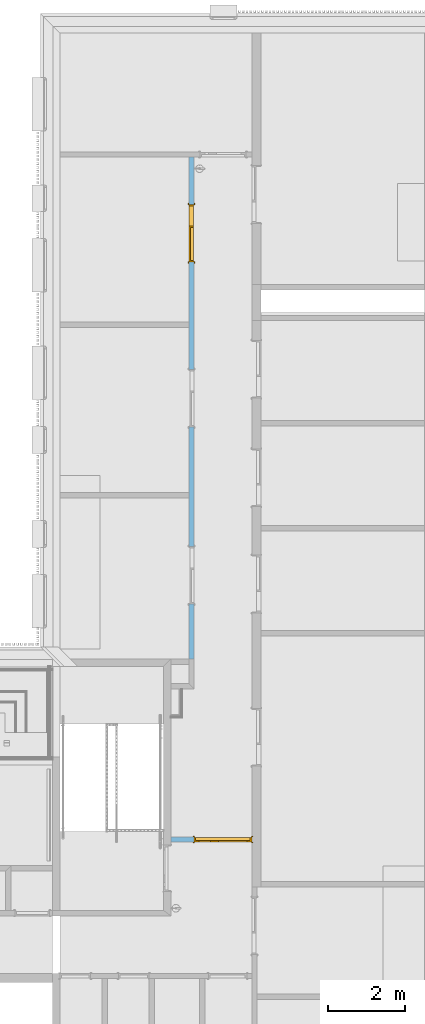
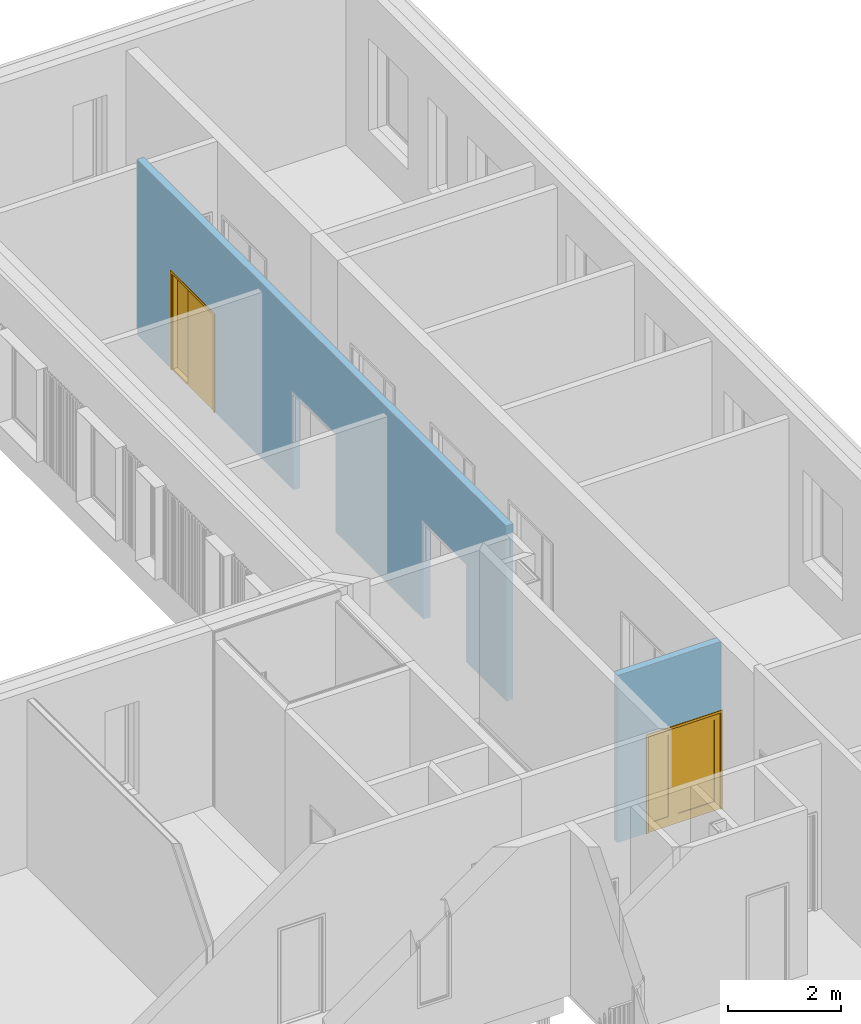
# One storey, part 57 of 100: 2 doors, 4 openings, plus 2 elements that do not belong to this part.
"""IFC2X3 building model written with IfcOpenShell, lengths in millimetres."""

from ifc_helpers import new_model, entity, si_unit, converted_unit, derived_unit, money_unit, direction, frame, origin_with_axes, origin_2d_with_axis, place, context, subcontext, project, spatial, polyline, rectangle, outline, extrude, open_shell, faceted_brep, surface_model, material, layer, layer_set, layer_usage, type_object, element, fill, save


model = new_model("IFC2X3")

# Units and contexts
model_context = context("Model", 3, precision=0.01, world=origin_with_axes(), true_north=direction((0.0, 1.0)))
body_context = subcontext(model_context, "Body", "Model", "MODEL_VIEW")
ifc_project = project(units=[si_unit("LENGTHUNIT", "METRE", prefix="MILLI"), si_unit("AREAUNIT", "SQUARE_METRE"), si_unit("VOLUMEUNIT", "CUBIC_METRE"), converted_unit("PLANEANGLEUNIT", "DEGREE", entity("IfcPlaneAngleMeasure", 0.0174532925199), si_unit("PLANEANGLEUNIT", "RADIAN"), dimensions=[0, 0, 0, 0, 0, 0, 0]), si_unit("SOLIDANGLEUNIT", "STERADIAN"), money_unit("EUR"), converted_unit("TIMEUNIT", "Year", entity("IfcTimeMeasure", 31556926.0), si_unit("TIMEUNIT", "SECOND"), dimensions=[0, 0, 1, 0, 0, 0, 0]), si_unit("MASSUNIT", "GRAM", prefix="KILO"), si_unit("THERMODYNAMICTEMPERATUREUNIT", "DEGREE_CELSIUS"), si_unit("LUMINOUSINTENSITYUNIT", "LUMEN"), si_unit("ENERGYUNIT", "JOULE", prefix="MEGA"), derived_unit("THERMALCONDUCTANCEUNIT", [(si_unit("POWERUNIT", "WATT"), 1), (si_unit("LENGTHUNIT", "METRE"), -1), (si_unit("THERMODYNAMICTEMPERATUREUNIT", "KELVIN"), -1)]), derived_unit("SPECIFICHEATCAPACITYUNIT", [(si_unit("ENERGYUNIT", "JOULE"), 1), (si_unit("MASSUNIT", "GRAM", prefix="KILO"), -1), (si_unit("THERMODYNAMICTEMPERATUREUNIT", "KELVIN"), -1)]), derived_unit("MASSDENSITYUNIT", [(si_unit("MASSUNIT", "GRAM", prefix="KILO"), 1), (si_unit("VOLUMEUNIT", "CUBIC_METRE"), -1)])], contexts=[model_context])

# Site, building, storey
site_placement = place(None, origin_with_axes())
site = spatial("IfcSite", under=ifc_project, at=site_placement, Name="Politse- ja Piirivalveameti ning Päästeameti ühishoone", CompositionType="ELEMENT")
building_placement = place(site_placement, origin_with_axes())
building = spatial("IfcBuilding", under=site, at=building_placement, Name="Politse- ja Piirivalveameti ning Päästeameti ühishoone", CompositionType="ELEMENT")
storey_placement = place(building_placement, frame((0.0, 0.0, 3800.0), z_axis=(0.0, 0.0, 1.0), x_axis=(1.0, 0.0, 0.0)))
storey = spatial("IfcBuildingStorey", under=building, at=storey_placement, Name="Teine korrus", CompositionType="ELEMENT", Elevation=3800.0)

# Wall, opening, door
ifc_material = material(Name="KON-05_Betoon Plokk - Konstuktsioon")
ifc_layer = layer(ifc_material, 140.0, ventilated="UNKNOWN")
ifc_layer_set = layer_set([ifc_layer], Name="SS-02_Sisesein 140")
ifc_layer_usage_1 = layer_usage(ifc_layer_set, "AXIS2", "POSITIVE", 0.0)
wall_type = type_object("IfcWallType", Name="SS-02_Sisesein 140 140", PredefinedType="NOTDEFINED")
wall_1_placement = place(storey_placement, frame((63050.557259, 16419.9520832, 0.0), z_axis=(0.0, 0.0, 1.0), x_axis=(1.0, 0.0, 0.0)))
wall_1 = element("IfcWallStandardCase", 1, at=wall_1_placement, inside=storey, type_object=wall_type, material=ifc_layer_usage_1, Name="SS-02", context=body_context, shape_type="SweptSolid", body=[
    extrude(outline(polyline([(0.0, 0.0), (2110.00229167, 0.0), (2110.00229167, 140.0), (0.0, 140.0), (0.0, 0.0)])), origin_with_axes(), (0.0, 0.0, 1.0), 3620.0),
])
opening_1_placement = place(wall_1_placement, frame((1360.00229167, 0.0, 0.0), z_axis=(0.0, 0.0, 1.0), x_axis=(1.0, 0.0, 0.0)))
opening_1 = element("IfcOpeningElement", 2, at=opening_1_placement, cuts=wall_1, Name="SU-01-9", context=body_context, shape_type="SweptSolid", body=[
    extrude(rectangle(XDim=1500.0, YDim=2100.0, at=origin_2d_with_axis()), frame((0.0, 140.0, 1050.0), z_axis=(0.0, -1.0, 0.0), x_axis=(-1.0, 0.0, 0.0)), (0.0, 0.0, 1.0), 420.0),
    extrude(rectangle(XDim=1574.0, YDim=2137.0, at=origin_2d_with_axis()), frame((0.0, 140.0, 1068.5), z_axis=(0.0, -1.0, 0.0), x_axis=(-1.0, 0.0, 0.0)), (0.0, 0.0, -1.0), 140.0),
    extrude(rectangle(XDim=1574.0, YDim=2137.0, at=origin_2d_with_axis()), frame((0.0, 0.0, 1068.5), z_axis=(0.0, 1.0, 0.0), x_axis=(-1.0, 0.0, 0.0)), (0.0, 0.0, -1.0), 140.0),
])
door_style_1 = type_object("IfcDoorStyle", Name="Double Door Asymmetric 23", ConstructionType="NOTDEFINED", OperationType="DOUBLE_DOOR_SINGLE_SWING", ParameterTakesPrecedence=False, Sizeable=False)
door_1_placement = place(opening_1_placement, frame((750.0, 0.0, 0.0), z_axis=(0.0, 0.0, 1.0), x_axis=(-1.0, 0.0, 0.0)))
door_1 = element("IfcDoor", 3, at=door_1_placement, inside=storey, type_object=door_style_1, Name="SU-01-9", ObjectType="DOOR", OverallHeight=2100.0, OverallWidth=1500.0, context=body_context, shape_type="SurfaceModel", body=[
    faceted_brep([(1472.0, -40.0, 0.0), (1472.0, -40.0, 12.0), (1460.0, -40.0, 12.0), (1460.0, -40.0, 0.0), (28.0, -40.0, 0.0), (28.0, -40.0, 12.0), (40.0, -40.0, 12.0), (40.0, -115.0, 12.0), (1460.0, -115.0, 12.0), (1460.0, -115.0, 0.0), (40.0, -115.0, 0.0), (40.0, -40.0, 0.0)], [[[0, 1, 2, 3]], [[4, 5, 1, 0]], [[1, 5, 6, 7, 8, 2]], [[3, 2, 8, 9]], [[0, 3, 9, 10, 11, 4]], [[11, 6, 5, 4]], [[10, 7, 6, 11]], [[9, 8, 7, 10]]]),
    faceted_brep([(0.0, -115.0, 0.0), (25.0, -115.0, 0.0), (25.0, -140.0, 0.0), (0.0, -140.0, 0.0), (0.0, -115.0, 2100.0), (25.0, -115.0, 2075.0), (25.0, -140.0, 2075.0), (0.0, -140.0, 2100.0)], [[[0, 1, 2, 3]], [[0, 4, 5, 1]], [[1, 5, 6, 2]], [[3, 2, 6, 7]], [[4, 0, 3, 7]], [[5, 4, 7, 6]]]),
    faceted_brep([(1500.0, -115.0, 2100.0), (1475.0, -115.0, 2075.0), (1475.0, -140.0, 2075.0), (1500.0, -140.0, 2100.0), (1500.0, -115.0, 0.0), (1475.0, -115.0, 0.0), (1475.0, -140.0, 0.0), (1500.0, -140.0, 0.0)], [[[0, 1, 2, 3]], [[0, 4, 5, 1]], [[1, 5, 6, 2]], [[3, 2, 6, 7]], [[4, 0, 3, 7]], [[5, 4, 7, 6]]]),
    faceted_brep([(25.0, -115.0, 2075.0), (1475.0, -115.0, 2075.0), (1475.0, -140.0, 2075.0), (25.0, -140.0, 2075.0), (0.0, -115.0, 2100.0), (1500.0, -115.0, 2100.0), (1500.0, -140.0, 2100.0), (0.0, -140.0, 2100.0)], [[[0, 1, 2, 3]], [[0, 4, 5, 1]], [[1, 5, 6, 2]], [[3, 2, 6, 7]], [[4, 0, 3, 7]], [[5, 4, 7, 6]]]),
    faceted_brep([(-37.0, -159.0, 0.0), (-37.0, -140.0, 0.0), (13.0, -140.0, 0.0), (13.0, -159.0, 0.0), (-37.0, -159.0, 2137.0), (-37.0, -140.0, 2137.0), (13.0, -140.0, 2087.0), (13.0, -159.0, 2087.0)], [[[0, 1, 2, 3]], [[4, 5, 1, 0]], [[1, 5, 6, 2]], [[3, 2, 6, 7]], [[0, 3, 7, 4]], [[7, 6, 5, 4]]]),
    faceted_brep([(1537.0, -159.0, 2137.0), (1537.0, -140.0, 2137.0), (1487.0, -140.0, 2087.0), (1487.0, -159.0, 2087.0), (1537.0, -159.0, 0.0), (1537.0, -140.0, 0.0), (1487.0, -140.0, 0.0), (1487.0, -159.0, 0.0)], [[[0, 1, 2, 3]], [[4, 5, 1, 0]], [[1, 5, 6, 2]], [[3, 2, 6, 7]], [[0, 3, 7, 4]], [[7, 6, 5, 4]]]),
    faceted_brep([(-37.0, -159.0, 2137.0), (-37.0, -140.0, 2137.0), (13.0, -140.0, 2087.0), (13.0, -159.0, 2087.0), (1537.0, -159.0, 2137.0), (1537.0, -140.0, 2137.0), (1487.0, -140.0, 2087.0), (1487.0, -159.0, 2087.0)], [[[0, 1, 2, 3]], [[4, 5, 1, 0]], [[1, 5, 6, 2]], [[3, 2, 6, 7]], [[0, 3, 7, 4]], [[7, 6, 5, 4]]]),
    faceted_brep([(-37.0, 19.0, 0.0), (13.0, 19.0, 0.0), (13.0, 0.0, 0.0), (-37.0, 0.0, 0.0), (-37.0, 19.0, 2137.0), (13.0, 19.0, 2087.0), (13.0, 0.0, 2087.0), (-37.0, 0.0, 2137.0)], [[[0, 1, 2, 3]], [[0, 4, 5, 1]], [[1, 5, 6, 2]], [[3, 2, 6, 7]], [[4, 0, 3, 7]], [[5, 4, 7, 6]]]),
    faceted_brep([(1537.0, 19.0, 2137.0), (1487.0, 19.0, 2087.0), (1487.0, 0.0, 2087.0), (1537.0, 0.0, 2137.0), (1537.0, 19.0, 0.0), (1487.0, 19.0, 0.0), (1487.0, 0.0, 0.0), (1537.0, 0.0, 0.0)], [[[0, 1, 2, 3]], [[0, 4, 5, 1]], [[1, 5, 6, 2]], [[3, 2, 6, 7]], [[4, 0, 3, 7]], [[5, 4, 7, 6]]]),
    faceted_brep([(-37.0, 19.0, 2137.0), (13.0, 19.0, 2087.0), (13.0, 0.0, 2087.0), (-37.0, 0.0, 2137.0), (1537.0, 19.0, 2137.0), (1487.0, 19.0, 2087.0), (1487.0, 0.0, 2087.0), (1537.0, 0.0, 2137.0)], [[[0, 1, 2, 3]], [[0, 4, 5, 1]], [[1, 5, 6, 2]], [[3, 2, 6, 7]], [[4, 0, 3, 7]], [[5, 4, 7, 6]]]),
    faceted_brep([(40.0, -40.0, 0.0), (40.0, -40.0, 2060.0), (40.0, -115.0, 2060.0), (40.0, -115.0, 0.0), (28.0, -40.0, 2060.0), (28.0, -40.0, 0.0), (28.0, 0.0, 2060.0), (0.0, 0.0, 2060.0), (0.0, -115.0, 2060.0), (0.0, -115.0, 0.0), (0.0, 0.0, 0.0), (28.0, 0.0, 0.0)], [[[0, 1, 2, 3]], [[4, 1, 0, 5]], [[4, 6, 7, 8, 2, 1]], [[3, 2, 8, 9]], [[5, 0, 3, 9, 10, 11]], [[6, 4, 5, 11]], [[6, 11, 10, 7]], [[10, 9, 8, 7]]]),
    faceted_brep([(1472.0, -40.0, 2060.0), (1460.0, -40.0, 2060.0), (1460.0, -115.0, 2060.0), (1500.0, -115.0, 2060.0), (1500.0, 0.0, 2060.0), (1472.0, 0.0, 2060.0), (1472.0, -40.0, 0.0), (1460.0, -40.0, 0.0), (1460.0, -115.0, 0.0), (1500.0, -115.0, 0.0), (1500.0, 0.0, 0.0), (1472.0, 0.0, 0.0)], [[[0, 1, 2, 3, 4, 5]], [[1, 0, 6, 7]], [[1, 7, 8, 2]], [[3, 2, 8, 9]], [[4, 3, 9, 10]], [[11, 5, 4, 10]], [[0, 5, 11, 6]], [[6, 11, 10, 9, 8, 7]]]),
    faceted_brep([(28.0, 0.0, 2072.0), (28.0, 0.0, 2060.0), (0.0, 0.0, 2060.0), (0.0, 0.0, 2100.0), (1500.0, 0.0, 2100.0), (1500.0, 0.0, 2060.0), (1472.0, 0.0, 2060.0), (1472.0, 0.0, 2072.0), (28.0, -40.0, 2072.0), (28.0, -40.0, 2060.0), (40.0, -40.0, 2060.0), (40.0, -115.0, 2060.0), (0.0, -115.0, 2060.0), (0.0, -115.0, 2100.0), (1500.0, -115.0, 2100.0), (1500.0, -115.0, 2060.0), (1472.0, -40.0, 2060.0), (1460.0, -115.0, 2060.0), (1460.0, -40.0, 2060.0), (1472.0, -40.0, 2072.0)], [[[0, 1, 2, 3, 4, 5, 6, 7]], [[1, 0, 8, 9]], [[9, 10, 11, 12, 2, 1]], [[2, 12, 13, 3]], [[3, 13, 14, 4]], [[4, 14, 15, 5]], [[16, 6, 5, 15, 17, 18]], [[7, 6, 16, 19]], [[0, 7, 19, 8]], [[16, 18, 10, 9, 8, 19]], [[10, 18, 17, 11]], [[17, 15, 14, 13, 12, 11]]]),
    faceted_brep([(1472.0, 0.0, 200.0), (1472.0, -40.0, 200.0), (1372.0, -40.0, 200.0), (1372.0, 0.0, 200.0), (1472.0, 0.0, 1972.0), (1472.0, -40.0, 1972.0), (1372.0, -40.0, 1972.0), (1372.0, 0.0, 1972.0)], [[[0, 1, 2, 3]], [[4, 5, 1, 0]], [[1, 5, 6, 2]], [[3, 2, 6, 7]], [[0, 3, 7, 4]], [[7, 6, 5, 4]]]),
    faceted_brep([(972.0, 0.0, 200.0), (972.0, -40.0, 200.0), (972.0, -40.0, 1972.0), (972.0, 0.0, 1972.0), (1072.0, 0.0, 200.0), (1072.0, -40.0, 200.0), (1072.0, -40.0, 1972.0), (1072.0, 0.0, 1972.0)], [[[0, 1, 2, 3]], [[4, 5, 1, 0]], [[1, 5, 6, 2]], [[3, 2, 6, 7]], [[0, 3, 7, 4]], [[7, 6, 5, 4]]]),
    faceted_brep([(1472.0, 0.0, 0.0), (1472.0, -40.0, 0.0), (972.0, -40.0, 0.0), (972.0, 0.0, 0.0), (1472.0, 0.0, 200.0), (1472.0, -40.0, 200.0), (1372.0, -40.0, 200.0), (1072.0, -40.0, 200.0), (972.0, -40.0, 200.0), (972.0, 0.0, 200.0), (1072.0, 0.0, 200.0), (1372.0, 0.0, 200.0)], [[[0, 1, 2, 3]], [[4, 5, 1, 0]], [[1, 5, 6, 7, 8, 2]], [[3, 2, 8, 9]], [[0, 3, 9, 10, 11, 4]], [[11, 6, 5, 4]], [[10, 7, 6, 11]], [[9, 8, 7, 10]]]),
    faceted_brep([(1472.0, 0.0, 2072.0), (1472.0, -40.0, 2072.0), (1472.0, -40.0, 1972.0), (1472.0, 0.0, 1972.0), (972.0, 0.0, 2072.0), (972.0, -40.0, 2072.0), (972.0, -40.0, 1972.0), (1072.0, -40.0, 1972.0), (1372.0, -40.0, 1972.0), (1372.0, 0.0, 1972.0), (1072.0, 0.0, 1972.0), (972.0, 0.0, 1972.0)], [[[0, 1, 2, 3]], [[4, 5, 1, 0]], [[1, 5, 6, 7, 8, 2]], [[3, 2, 8, 9]], [[0, 3, 9, 10, 11, 4]], [[11, 6, 5, 4]], [[10, 7, 6, 11]], [[9, 8, 7, 10]]]),
    surface_model("IfcShellBasedSurfaceModel", [(1372.0, -14.0, 200.0), (1072.0, -14.0, 200.0), (1072.0, -14.0, 1972.0), (1372.0, -14.0, 1972.0)], [open_shell([[[0, 1, 2, 3]]])]),
    surface_model("IfcShellBasedSurfaceModel", [(1372.0, -26.0, 200.0), (1372.0, -26.0, 1972.0), (1072.0, -26.0, 1972.0), (1072.0, -26.0, 200.0)], [open_shell([[[0, 1, 2, 3]]])]),
    faceted_brep([(28.0, 0.0, 200.0), (128.0, 0.0, 200.0), (128.0, -40.0, 200.0), (28.0, -40.0, 200.0), (28.0, 0.0, 1972.0), (128.0, 0.0, 1972.0), (128.0, -40.0, 1972.0), (28.0, -40.0, 1972.0)], [[[0, 1, 2, 3]], [[0, 4, 5, 1]], [[1, 5, 6, 2]], [[3, 2, 6, 7]], [[4, 0, 3, 7]], [[5, 4, 7, 6]]]),
    faceted_brep([(972.0, 0.0, 200.0), (972.0, 0.0, 1972.0), (972.0, -40.0, 1972.0), (972.0, -40.0, 200.0), (872.0, 0.0, 200.0), (872.0, 0.0, 1972.0), (872.0, -40.0, 1972.0), (872.0, -40.0, 200.0)], [[[0, 1, 2, 3]], [[0, 4, 5, 1]], [[1, 5, 6, 2]], [[3, 2, 6, 7]], [[4, 0, 3, 7]], [[5, 4, 7, 6]]]),
    faceted_brep([(28.0, 0.0, 0.0), (972.0, 0.0, 0.0), (972.0, -40.0, 0.0), (28.0, -40.0, 0.0), (28.0, 0.0, 200.0), (128.0, 0.0, 200.0), (872.0, 0.0, 200.0), (972.0, 0.0, 200.0), (972.0, -40.0, 200.0), (872.0, -40.0, 200.0), (128.0, -40.0, 200.0), (28.0, -40.0, 200.0)], [[[0, 1, 2, 3]], [[0, 4, 5, 6, 7, 1]], [[1, 7, 8, 2]], [[3, 2, 8, 9, 10, 11]], [[4, 0, 3, 11]], [[5, 4, 11, 10]], [[6, 5, 10, 9]], [[7, 6, 9, 8]]]),
    faceted_brep([(28.0, 0.0, 2072.0), (28.0, 0.0, 1972.0), (28.0, -40.0, 1972.0), (28.0, -40.0, 2072.0), (972.0, 0.0, 2072.0), (972.0, 0.0, 1972.0), (872.0, 0.0, 1972.0), (128.0, 0.0, 1972.0), (128.0, -40.0, 1972.0), (872.0, -40.0, 1972.0), (972.0, -40.0, 1972.0), (972.0, -40.0, 2072.0)], [[[0, 1, 2, 3]], [[0, 4, 5, 6, 7, 1]], [[1, 7, 8, 2]], [[3, 2, 8, 9, 10, 11]], [[4, 0, 3, 11]], [[5, 4, 11, 10]], [[6, 5, 10, 9]], [[7, 6, 9, 8]]]),
    surface_model("IfcShellBasedSurfaceModel", [(128.0, -14.0, 200.0), (128.0, -14.0, 1972.0), (872.0, -14.0, 1972.0), (872.0, -14.0, 200.0)], [open_shell([[[0, 1, 2, 3]]])]),
    surface_model("IfcShellBasedSurfaceModel", [(128.0, -26.0, 200.0), (872.0, -26.0, 200.0), (872.0, -26.0, 1972.0), (128.0, -26.0, 1972.0)], [open_shell([[[0, 1, 2, 3]]])]),
])
fill(opening_1, door_1)

# Wall, openings, door
ifc_layer_usage_2 = layer_usage(ifc_layer_set, "AXIS2", "POSITIVE", 0.0)
wall_2_placement = place(storey_placement, frame((63660.557259, 21189.9520832, 0.0), z_axis=(0.0, 0.0, 1.0), x_axis=(0.0, 1.0, 0.0)))
wall_2 = element("IfcWallStandardCase", 4, at=wall_2_placement, inside=storey, type_object=wall_type, material=ifc_layer_usage_2, Name="SS-02", context=body_context, shape_type="SweptSolid", body=[
    extrude(outline(polyline([(0.0, 0.0), (13080.0233895, 0.0), (13080.0233895, 140.0), (0.0, 140.0), (0.0, 0.0)])), origin_with_axes(), (0.0, 0.0, 1.0), 3800.0),
])
opening_2_placement = place(wall_2_placement, frame((6792.70747396, 0.0, 0.0), z_axis=(0.0, 0.0, 1.0), x_axis=(1.0, 0.0, 0.0)))
element("IfcOpeningElement", 5, at=opening_2_placement, cuts=wall_2, Name="SU-02-5", context=body_context, shape_type="SweptSolid", body=[
    extrude(rectangle(XDim=1500.0, YDim=2100.0, at=origin_2d_with_axis()), frame((0.0, 140.0, 1050.0), z_axis=(0.0, 1.0, 0.0), x_axis=(-1.0, 0.0, 0.0)), (0.0, 0.0, -1.0), 420.0),
    extrude(rectangle(XDim=1574.0, YDim=2137.0, at=origin_2d_with_axis()), frame((0.0, 140.0, 1068.5), z_axis=(0.0, 1.0, 0.0), x_axis=(-1.0, 0.0, 0.0)), (0.0, 0.0, 1.0), 140.0),
    extrude(rectangle(XDim=1574.0, YDim=2137.0, at=origin_2d_with_axis()), frame((0.0, 0.0, 1068.5), z_axis=(0.0, -1.0, 0.0), x_axis=(-1.0, 0.0, 0.0)), (0.0, 0.0, 1.0), 140.0),
])
opening_3_placement = place(wall_2_placement, frame((11095.7320107, 0.0, 0.0), z_axis=(0.0, 0.0, 1.0), x_axis=(1.0, 0.0, 0.0)))
opening_3 = element("IfcOpeningElement", 6, at=opening_3_placement, cuts=wall_2, Name="SU-02-5", context=body_context, shape_type="SweptSolid", body=[
    extrude(rectangle(XDim=1500.0, YDim=2100.0, at=origin_2d_with_axis()), frame((0.0, -140.0, 1050.0), z_axis=(0.0, -1.0, 0.0), x_axis=(-1.0, 0.0, 0.0)), (0.0, 0.0, -1.0), 420.0),
    extrude(rectangle(XDim=1574.0, YDim=2137.0, at=origin_2d_with_axis()), frame((0.0, 0.0, 1068.5), z_axis=(0.0, -1.0, 0.0), x_axis=(-1.0, 0.0, 0.0)), (0.0, 0.0, 1.0), 140.0),
    extrude(rectangle(XDim=1574.0, YDim=2137.0, at=origin_2d_with_axis()), frame((0.0, 140.0, 1068.5), z_axis=(0.0, 1.0, 0.0), x_axis=(-1.0, 0.0, 0.0)), (0.0, 0.0, 1.0), 140.0),
])
opening_4_placement = place(wall_2_placement, frame((2179.63155757, 0.0, 0.0), z_axis=(0.0, 0.0, 1.0), x_axis=(1.0, 0.0, 0.0)))
element("IfcOpeningElement", 7, at=opening_4_placement, cuts=wall_2, Name="SU-02-5", context=body_context, shape_type="SweptSolid", body=[
    extrude(rectangle(XDim=1500.0, YDim=2100.0, at=origin_2d_with_axis()), frame((0.0, 140.0, 1050.0), z_axis=(0.0, 1.0, 0.0), x_axis=(-1.0, 0.0, 0.0)), (0.0, 0.0, -1.0), 420.0),
    extrude(rectangle(XDim=1574.0, YDim=2137.0, at=origin_2d_with_axis()), frame((0.0, 140.0, 1068.5), z_axis=(0.0, 1.0, 0.0), x_axis=(-1.0, 0.0, 0.0)), (0.0, 0.0, 1.0), 140.0),
    extrude(rectangle(XDim=1574.0, YDim=2137.0, at=origin_2d_with_axis()), frame((0.0, 0.0, 1068.5), z_axis=(0.0, -1.0, 0.0), x_axis=(-1.0, 0.0, 0.0)), (0.0, 0.0, 1.0), 140.0),
])
door_style_2 = type_object("IfcDoorStyle", Name="Door with Sidelight on Side 2 23", ConstructionType="NOTDEFINED", OperationType="NOTDEFINED", ParameterTakesPrecedence=False, Sizeable=False)
door_2_placement = place(opening_3_placement, frame((-750.0, 0.0, 0.0), z_axis=(0.0, 0.0, 1.0), x_axis=(1.0, 0.0, 0.0)))
door_2 = element("IfcDoor", 8, at=door_2_placement, inside=storey, type_object=door_style_2, Name="SU-02-5", ObjectType="DOOR", OverallHeight=2100.0, OverallWidth=1500.0, context=body_context, shape_type="SurfaceModel", body=[
    faceted_brep([(28.0, 100.0, 0.0), (40.0, 100.0, 0.0), (40.0, 100.0, 12.0), (28.0, 100.0, 12.0), (912.0, 100.0, 0.0), (900.0, 100.0, 0.0), (900.0, 25.0, 0.0), (40.0, 25.0, 0.0), (40.0, 25.0, 12.0), (900.0, 25.0, 12.0), (900.0, 100.0, 12.0), (912.0, 100.0, 12.0)], [[[0, 1, 2, 3]], [[0, 4, 5, 6, 7, 1]], [[1, 7, 8, 2]], [[3, 2, 8, 9, 10, 11]], [[4, 0, 3, 11]], [[5, 4, 11, 10]], [[6, 5, 10, 9]], [[7, 6, 9, 8]]]),
    faceted_brep([(1500.0, 25.0, 0.0), (1500.0, 0.0, 0.0), (1475.0, 0.0, 0.0), (1475.0, 25.0, 0.0), (1500.0, 25.0, 2100.0), (1500.0, 0.0, 2100.0), (1475.0, 0.0, 2075.0), (1475.0, 25.0, 2075.0)], [[[0, 1, 2, 3]], [[4, 5, 1, 0]], [[1, 5, 6, 2]], [[3, 2, 6, 7]], [[0, 3, 7, 4]], [[7, 6, 5, 4]]]),
    faceted_brep([(0.0, 25.0, 2100.0), (0.0, 0.0, 2100.0), (25.0, 0.0, 2075.0), (25.0, 25.0, 2075.0), (0.0, 25.0, 0.0), (0.0, 0.0, 0.0), (25.0, 0.0, 0.0), (25.0, 25.0, 0.0)], [[[0, 1, 2, 3]], [[4, 5, 1, 0]], [[1, 5, 6, 2]], [[3, 2, 6, 7]], [[0, 3, 7, 4]], [[7, 6, 5, 4]]]),
    faceted_brep([(1475.0, 25.0, 2075.0), (1475.0, 0.0, 2075.0), (25.0, 0.0, 2075.0), (25.0, 25.0, 2075.0), (1500.0, 25.0, 2100.0), (1500.0, 0.0, 2100.0), (0.0, 0.0, 2100.0), (0.0, 25.0, 2100.0)], [[[0, 1, 2, 3]], [[4, 5, 1, 0]], [[1, 5, 6, 2]], [[3, 2, 6, 7]], [[0, 3, 7, 4]], [[7, 6, 5, 4]]]),
    faceted_brep([(1537.0, -19.0, 0.0), (1487.0, -19.0, 0.0), (1487.0, 0.0, 0.0), (1537.0, 0.0, 0.0), (1537.0, -19.0, 2137.0), (1487.0, -19.0, 2087.0), (1487.0, 0.0, 2087.0), (1537.0, 0.0, 2137.0)], [[[0, 1, 2, 3]], [[0, 4, 5, 1]], [[1, 5, 6, 2]], [[3, 2, 6, 7]], [[4, 0, 3, 7]], [[5, 4, 7, 6]]]),
    faceted_brep([(-37.0, -19.0, 2137.0), (13.0, -19.0, 2087.0), (13.0, 0.0, 2087.0), (-37.0, 0.0, 2137.0), (-37.0, -19.0, 0.0), (13.0, -19.0, 0.0), (13.0, 0.0, 0.0), (-37.0, 0.0, 0.0)], [[[0, 1, 2, 3]], [[0, 4, 5, 1]], [[1, 5, 6, 2]], [[3, 2, 6, 7]], [[4, 0, 3, 7]], [[5, 4, 7, 6]]]),
    faceted_brep([(1537.0, -19.0, 2137.0), (1487.0, -19.0, 2087.0), (1487.0, 0.0, 2087.0), (1537.0, 0.0, 2137.0), (-37.0, -19.0, 2137.0), (13.0, -19.0, 2087.0), (13.0, 0.0, 2087.0), (-37.0, 0.0, 2137.0)], [[[0, 1, 2, 3]], [[0, 4, 5, 1]], [[1, 5, 6, 2]], [[3, 2, 6, 7]], [[4, 0, 3, 7]], [[5, 4, 7, 6]]]),
    faceted_brep([(1537.0, 159.0, 0.0), (1537.0, 140.0, 0.0), (1487.0, 140.0, 0.0), (1487.0, 159.0, 0.0), (1537.0, 159.0, 2137.0), (1537.0, 140.0, 2137.0), (1487.0, 140.0, 2087.0), (1487.0, 159.0, 2087.0)], [[[0, 1, 2, 3]], [[4, 5, 1, 0]], [[1, 5, 6, 2]], [[3, 2, 6, 7]], [[0, 3, 7, 4]], [[7, 6, 5, 4]]]),
    faceted_brep([(-37.0, 159.0, 2137.0), (-37.0, 140.0, 2137.0), (13.0, 140.0, 2087.0), (13.0, 159.0, 2087.0), (-37.0, 159.0, 0.0), (-37.0, 140.0, 0.0), (13.0, 140.0, 0.0), (13.0, 159.0, 0.0)], [[[0, 1, 2, 3]], [[4, 5, 1, 0]], [[1, 5, 6, 2]], [[3, 2, 6, 7]], [[0, 3, 7, 4]], [[7, 6, 5, 4]]]),
    faceted_brep([(1537.0, 159.0, 2137.0), (1537.0, 140.0, 2137.0), (1487.0, 140.0, 2087.0), (1487.0, 159.0, 2087.0), (-37.0, 159.0, 2137.0), (-37.0, 140.0, 2137.0), (13.0, 140.0, 2087.0), (13.0, 159.0, 2087.0)], [[[0, 1, 2, 3]], [[4, 5, 1, 0]], [[1, 5, 6, 2]], [[3, 2, 6, 7]], [[0, 3, 7, 4]], [[7, 6, 5, 4]]]),
    faceted_brep([(1500.0, 140.0, 0.0), (1500.0, 25.0, 0.0), (1460.0, 25.0, 0.0), (1460.0, 140.0, 0.0), (1500.0, 140.0, 2060.0), (1500.0, 25.0, 2060.0), (1460.0, 25.0, 2060.0), (1460.0, 25.0, 40.0), (1460.0, 140.0, 40.0), (1460.0, 140.0, 2060.0)], [[[0, 1, 2, 3]], [[4, 5, 1, 0]], [[1, 5, 6, 7, 2]], [[3, 2, 7, 8]], [[0, 3, 8, 9, 4]], [[9, 6, 5, 4]], [[8, 7, 6, 9]]]),
    faceted_brep([(900.0, 100.0, 0.0), (900.0, 25.0, 0.0), (900.0, 25.0, 2060.0), (900.0, 100.0, 2060.0), (912.0, 100.0, 0.0), (912.0, 140.0, 0.0), (940.0, 140.0, 0.0), (940.0, 25.0, 0.0), (940.0, 25.0, 40.0), (940.0, 25.0, 2060.0), (912.0, 100.0, 2060.0), (940.0, 140.0, 2060.0), (912.0, 140.0, 2060.0), (940.0, 140.0, 40.0)], [[[0, 1, 2, 3]], [[4, 5, 6, 7, 1, 0]], [[7, 8, 9, 2, 1]], [[10, 3, 2, 9, 11, 12]], [[10, 4, 0, 3]], [[12, 5, 4, 10]], [[12, 11, 13, 6, 5]], [[6, 13, 8, 7]], [[13, 11, 9, 8]]]),
    faceted_brep([(1460.0, 140.0, 40.0), (1460.0, 25.0, 40.0), (1460.0, 25.0, 0.0), (1460.0, 140.0, 0.0), (940.0, 140.0, 40.0), (940.0, 25.0, 40.0), (940.0, 25.0, 0.0), (940.0, 140.0, 0.0)], [[[0, 1, 2, 3]], [[4, 5, 1, 0]], [[1, 5, 6, 2]], [[3, 2, 6, 7]], [[0, 3, 7, 4]], [[7, 6, 5, 4]]]),
    faceted_brep([(28.0, 100.0, 2060.0), (28.0, 140.0, 2060.0), (0.0, 140.0, 2060.0), (0.0, 25.0, 2060.0), (40.0, 25.0, 2060.0), (40.0, 100.0, 2060.0), (28.0, 100.0, 0.0), (28.0, 140.0, 0.0), (0.0, 140.0, 0.0), (0.0, 25.0, 0.0), (40.0, 25.0, 0.0), (40.0, 100.0, 0.0)], [[[0, 1, 2, 3, 4, 5]], [[0, 6, 7, 1]], [[7, 8, 2, 1]], [[2, 8, 9, 3]], [[3, 9, 10, 4]], [[5, 4, 10, 11]], [[5, 11, 6, 0]], [[6, 11, 10, 9, 8, 7]]]),
    faceted_brep([(912.0, 140.0, 2072.0), (28.0, 140.0, 2072.0), (28.0, 140.0, 2060.0), (0.0, 140.0, 2060.0), (0.0, 140.0, 2100.0), (1500.0, 140.0, 2100.0), (1500.0, 140.0, 2060.0), (1460.0, 140.0, 2060.0), (940.0, 140.0, 2060.0), (912.0, 140.0, 2060.0), (912.0, 100.0, 2072.0), (28.0, 100.0, 2072.0), (28.0, 100.0, 2060.0), (40.0, 100.0, 2060.0), (40.0, 25.0, 2060.0), (0.0, 25.0, 2060.0), (0.0, 25.0, 2100.0), (1500.0, 25.0, 2100.0), (1500.0, 25.0, 2060.0), (1460.0, 25.0, 2060.0), (940.0, 25.0, 2060.0), (912.0, 100.0, 2060.0), (900.0, 25.0, 2060.0)], [[[0, 1, 2, 3, 4, 5, 6, 7, 8, 9]], [[0, 10, 11, 1]], [[1, 11, 12, 2]], [[12, 13, 14, 15, 3, 2]], [[4, 3, 15, 16]], [[5, 4, 16, 17]], [[6, 5, 17, 18]], [[7, 6, 18, 19]], [[8, 7, 19, 20]], [[21, 9, 8, 20, 22, 14, 13]], [[9, 21, 10, 0]], [[12, 11, 10, 21, 13]], [[14, 22, 20, 19, 18, 17, 16, 15]]]),
    faceted_brep([(28.0, 140.0, 0.0), (912.0, 140.0, 0.0), (912.0, 100.0, 0.0), (28.0, 100.0, 0.0), (28.0, 140.0, 2072.0), (912.0, 140.0, 2072.0), (912.0, 100.0, 2072.0), (28.0, 100.0, 2072.0)], [[[0, 1, 2, 3]], [[0, 4, 5, 1]], [[1, 5, 6, 2]], [[3, 2, 6, 7]], [[4, 0, 3, 7]], [[5, 4, 7, 6]]]),
    surface_model("IfcShellBasedSurfaceModel", [(1460.0, 49.0, 40.0), (940.0, 49.0, 40.0), (940.0, 49.0, 2060.0), (1460.0, 49.0, 2060.0)], [open_shell([[[0, 1, 2, 3]]])]),
    surface_model("IfcShellBasedSurfaceModel", [(1460.0, 37.0, 40.0), (1460.0, 37.0, 2060.0), (940.0, 37.0, 2060.0), (940.0, 37.0, 40.0)], [open_shell([[[0, 1, 2, 3]]])]),
])
fill(opening_3, door_2)

save(model, "model.ifc")
